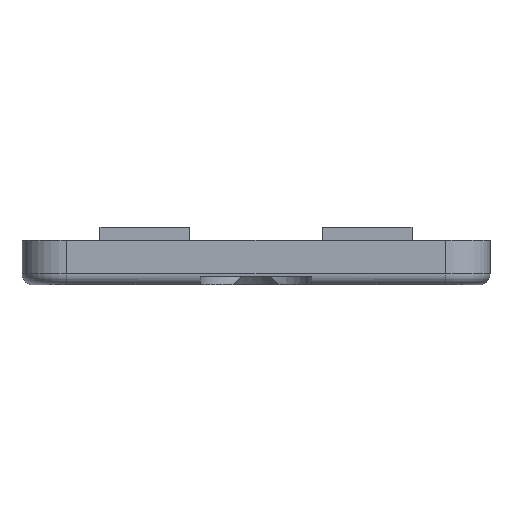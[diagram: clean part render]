
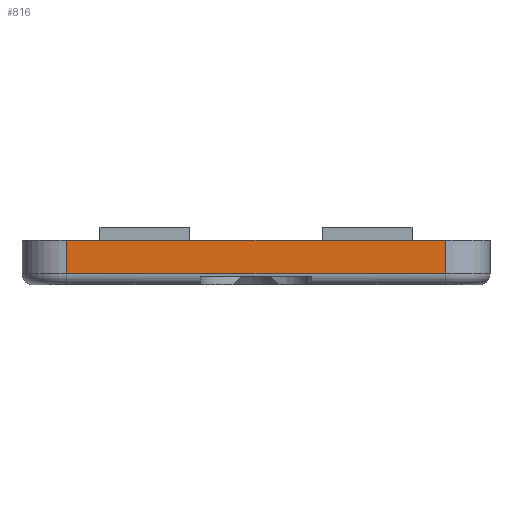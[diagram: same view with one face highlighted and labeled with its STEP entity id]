
A CAD part, front view. The second image highlights one B-rep face of the part: STEP entity #816.
In plain terms, the highlighted planar face has unit normal (0, -1, 0).
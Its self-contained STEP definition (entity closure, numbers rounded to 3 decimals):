
#44 = CYLINDRICAL_SURFACE('',#45,4.);
#45 = AXIS2_PLACEMENT_3D('',#46,#47,#48);
#46 = CARTESIAN_POINT('',(-65.,-34.,0.));
#47 = DIRECTION('',(-0.,-0.,-1.));
#48 = DIRECTION('',(1.,0.,0.));
#72 = PLANE('',#73);
#73 = AXIS2_PLACEMENT_3D('',#74,#75,#76);
#74 = CARTESIAN_POINT('',(-48.,0.,4.));
#75 = DIRECTION('',(0.,0.,1.));
#76 = DIRECTION('',(1.,0.,-0.));
#143 = VERTEX_POINT('',#144);
#144 = CARTESIAN_POINT('',(-65.,-38.,4.));
#166 = EDGE_CURVE('',#167,#143,#169,.T.);
#167 = VERTEX_POINT('',#168);
#168 = CARTESIAN_POINT('',(-65.,-38.,1.));
#169 = SURFACE_CURVE('',#170,(#174,#181),.PCURVE_S1.);
#170 = LINE('',#171,#172);
#171 = CARTESIAN_POINT('',(-65.,-38.,0.));
#172 = VECTOR('',#173,1.);
#173 = DIRECTION('',(0.,0.,1.));
#174 = PCURVE('',#44,#175);
#175 = DEFINITIONAL_REPRESENTATION('',(#176),#180);
#176 = LINE('',#177,#178);
#177 = CARTESIAN_POINT('',(-4.712,0.));
#178 = VECTOR('',#179,1.);
#179 = DIRECTION('',(-0.,-1.));
#180 = ( GEOMETRIC_REPRESENTATION_CONTEXT(2) 
PARAMETRIC_REPRESENTATION_CONTEXT() REPRESENTATION_CONTEXT('2D SPACE',''
  ) );
#181 = PCURVE('',#182,#187);
#182 = PLANE('',#183);
#183 = AXIS2_PLACEMENT_3D('',#184,#185,#186);
#184 = CARTESIAN_POINT('',(-65.,-38.,0.));
#185 = DIRECTION('',(0.,1.,0.));
#186 = DIRECTION('',(1.,0.,0.));
#187 = DEFINITIONAL_REPRESENTATION('',(#188),#192);
#188 = LINE('',#189,#190);
#189 = CARTESIAN_POINT('',(0.,0.));
#190 = VECTOR('',#191,1.);
#191 = DIRECTION('',(0.,-1.));
#192 = ( GEOMETRIC_REPRESENTATION_CONTEXT(2) 
PARAMETRIC_REPRESENTATION_CONTEXT() REPRESENTATION_CONTEXT('2D SPACE',''
  ) );
#305 = EDGE_CURVE('',#143,#306,#308,.T.);
#306 = VERTEX_POINT('',#307);
#307 = CARTESIAN_POINT('',(-31.,-38.,4.));
#308 = SURFACE_CURVE('',#309,(#313,#320),.PCURVE_S1.);
#309 = LINE('',#310,#311);
#310 = CARTESIAN_POINT('',(-48.,-38.,4.));
#311 = VECTOR('',#312,1.);
#312 = DIRECTION('',(1.,0.,0.));
#313 = PCURVE('',#72,#314);
#314 = DEFINITIONAL_REPRESENTATION('',(#315),#319);
#315 = LINE('',#316,#317);
#316 = CARTESIAN_POINT('',(0.,-38.));
#317 = VECTOR('',#318,1.);
#318 = DIRECTION('',(1.,0.));
#319 = ( GEOMETRIC_REPRESENTATION_CONTEXT(2) 
PARAMETRIC_REPRESENTATION_CONTEXT() REPRESENTATION_CONTEXT('2D SPACE',''
  ) );
#320 = PCURVE('',#182,#321);
#321 = DEFINITIONAL_REPRESENTATION('',(#322),#326);
#322 = LINE('',#323,#324);
#323 = CARTESIAN_POINT('',(17.,-4.));
#324 = VECTOR('',#325,1.);
#325 = DIRECTION('',(1.,0.));
#326 = ( GEOMETRIC_REPRESENTATION_CONTEXT(2) 
PARAMETRIC_REPRESENTATION_CONTEXT() REPRESENTATION_CONTEXT('2D SPACE',''
  ) );
#345 = CYLINDRICAL_SURFACE('',#346,4.);
#346 = AXIS2_PLACEMENT_3D('',#347,#348,#349);
#347 = CARTESIAN_POINT('',(-31.,-34.,0.));
#348 = DIRECTION('',(-0.,-0.,-1.));
#349 = DIRECTION('',(1.,0.,0.));
#778 = CYLINDRICAL_SURFACE('',#779,1.);
#779 = AXIS2_PLACEMENT_3D('',#780,#781,#782);
#780 = CARTESIAN_POINT('',(-31.,-37.,1.));
#781 = DIRECTION('',(-1.,-0.,-0.));
#782 = DIRECTION('',(0.,-1.,0.));
#816 = ADVANCED_FACE('',(#817),#182,.F.);
#817 = FACE_BOUND('',#818,.F.);
#818 = EDGE_LOOP('',(#819,#820,#821,#844));
#819 = ORIENTED_EDGE('',*,*,#166,.T.);
#820 = ORIENTED_EDGE('',*,*,#305,.T.);
#821 = ORIENTED_EDGE('',*,*,#822,.F.);
#822 = EDGE_CURVE('',#823,#306,#825,.T.);
#823 = VERTEX_POINT('',#824);
#824 = CARTESIAN_POINT('',(-31.,-38.,1.));
#825 = SURFACE_CURVE('',#826,(#830,#837),.PCURVE_S1.);
#826 = LINE('',#827,#828);
#827 = CARTESIAN_POINT('',(-31.,-38.,0.));
#828 = VECTOR('',#829,1.);
#829 = DIRECTION('',(0.,0.,1.));
#830 = PCURVE('',#182,#831);
#831 = DEFINITIONAL_REPRESENTATION('',(#832),#836);
#832 = LINE('',#833,#834);
#833 = CARTESIAN_POINT('',(34.,0.));
#834 = VECTOR('',#835,1.);
#835 = DIRECTION('',(0.,-1.));
#836 = ( GEOMETRIC_REPRESENTATION_CONTEXT(2) 
PARAMETRIC_REPRESENTATION_CONTEXT() REPRESENTATION_CONTEXT('2D SPACE',''
  ) );
#837 = PCURVE('',#345,#838);
#838 = DEFINITIONAL_REPRESENTATION('',(#839),#843);
#839 = LINE('',#840,#841);
#840 = CARTESIAN_POINT('',(-4.712,0.));
#841 = VECTOR('',#842,1.);
#842 = DIRECTION('',(-0.,-1.));
#843 = ( GEOMETRIC_REPRESENTATION_CONTEXT(2) 
PARAMETRIC_REPRESENTATION_CONTEXT() REPRESENTATION_CONTEXT('2D SPACE',''
  ) );
#844 = ORIENTED_EDGE('',*,*,#845,.T.);
#845 = EDGE_CURVE('',#823,#167,#846,.T.);
#846 = SURFACE_CURVE('',#847,(#851,#858),.PCURVE_S1.);
#847 = LINE('',#848,#849);
#848 = CARTESIAN_POINT('',(-31.,-38.,1.));
#849 = VECTOR('',#850,1.);
#850 = DIRECTION('',(-1.,-0.,-0.));
#851 = PCURVE('',#182,#852);
#852 = DEFINITIONAL_REPRESENTATION('',(#853),#857);
#853 = LINE('',#854,#855);
#854 = CARTESIAN_POINT('',(34.,-1.));
#855 = VECTOR('',#856,1.);
#856 = DIRECTION('',(-1.,0.));
#857 = ( GEOMETRIC_REPRESENTATION_CONTEXT(2) 
PARAMETRIC_REPRESENTATION_CONTEXT() REPRESENTATION_CONTEXT('2D SPACE',''
  ) );
#858 = PCURVE('',#778,#859);
#859 = DEFINITIONAL_REPRESENTATION('',(#860),#864);
#860 = LINE('',#861,#862);
#861 = CARTESIAN_POINT('',(-0.,0.));
#862 = VECTOR('',#863,1.);
#863 = DIRECTION('',(-0.,1.));
#864 = ( GEOMETRIC_REPRESENTATION_CONTEXT(2) 
PARAMETRIC_REPRESENTATION_CONTEXT() REPRESENTATION_CONTEXT('2D SPACE',''
  ) );
